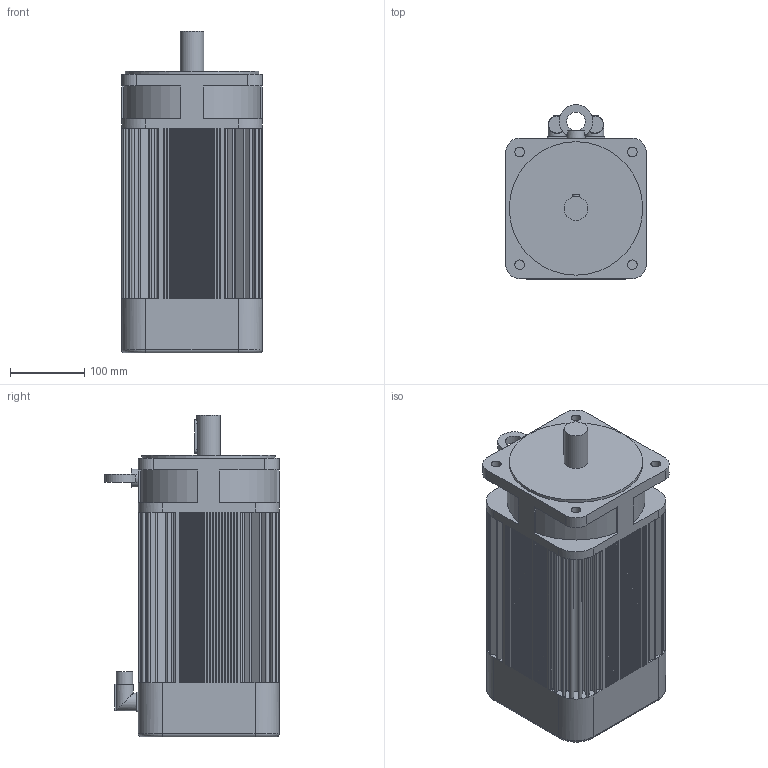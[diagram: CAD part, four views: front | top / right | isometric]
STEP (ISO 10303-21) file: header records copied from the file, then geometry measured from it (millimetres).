
FILE_DESCRIPTION(/* description */ (''),/* implementation_level */ '2;1');
FILE_NAME(/* name */ '\\Lafnas01\disegni\Archivi Lafert\3D\CAD 3D\MODELLI\Assiemi clienti\Serad\Modelli 3D Serad\B100I\Resolver\Res Without Brake\B1043Ixx6A052033.ipt.stp',/* time_stamp */ '2015-09-07T10:47:49+02:00',/* author */ ('Pastrello Ylenia'),/* organization */ (''),/* preprocessor_version */ 'ST-DEVELOPER v15.6',/* originating_system */ 'Autodesk Inventor 2015',/* authorisation */ '');
FILE_SCHEMA (('AUTOMOTIVE_DESIGN { 1 0 10303 214 3 1 1 }'));
Length unit declared in the file: millimetre
Products named in the file (1): B1043Ixx6A052033
Bounding box: 190 x 235 x 434 mm (x, y, z)
Volume: 12602130.9 mm3; surface area: 503065.2 mm2
Topology: 1 solids, 1 shells, 608 faces, 1497 edges, 980 vertices
Faces by surface type: plane 499, cylinder 105, torus 4
Full cylindrical faces by diameter (mm): 13 x4, 22.7 x2, 24 x2, 25 x2, 32 x1, 180 x1
Entity records: 17791 total; most frequent: CARTESIAN_POINT 3128, DIRECTION 2992, ORIENTED_EDGE 2962, EDGE_CURVE 1481, LINE 1180, VECTOR 1180, VERTEX_POINT 977, AXIS2_PLACEMENT_3D 906
